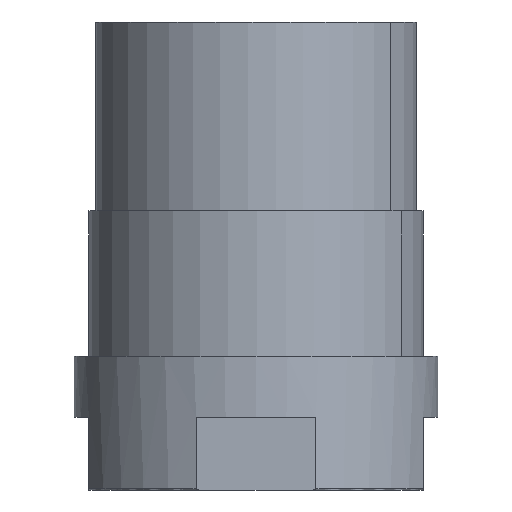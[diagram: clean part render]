
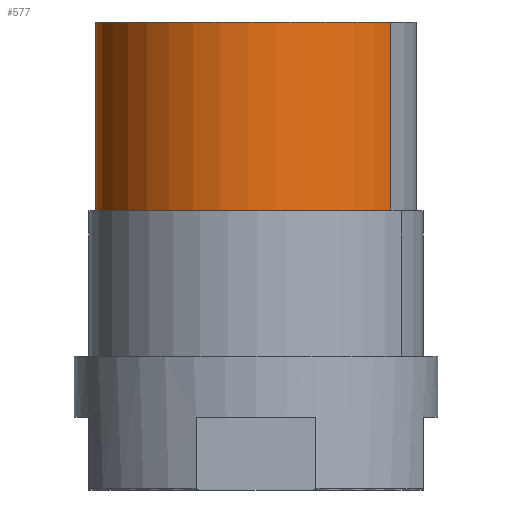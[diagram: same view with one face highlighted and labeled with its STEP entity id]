
A CAD part, front view. The second image highlights one B-rep face of the part: STEP entity #577.
In plain terms, the highlighted cylindrical face has radius 55.25 mm (diameter 110.5 mm), a partial arc.
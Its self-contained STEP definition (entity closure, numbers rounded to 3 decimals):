
#246 = EDGE_CURVE ( 'NONE', #2654, #2681, #785, .T. ) ;
#247 = EDGE_CURVE ( 'NONE', #2654, #2677, #786, .T. ) ;
#248 = EDGE_CURVE ( 'NONE', #2677, #2679, #788, .T. ) ;
#249 = EDGE_CURVE ( 'NONE', #2681, #2679, #791, .T. ) ;
#289 = EDGE_LOOP ( 'NONE', ( #518, #519, #520, #521 ) ) ;
#518 = ORIENTED_EDGE ( 'NONE', *, *, #246, .F. ) ;
#519 = ORIENTED_EDGE ( 'NONE', *, *, #247, .T. ) ;
#520 = ORIENTED_EDGE ( 'NONE', *, *, #248, .T. ) ;
#521 = ORIENTED_EDGE ( 'NONE', *, *, #249, .F. ) ;
#577 = ADVANCED_FACE ( 'NONE', ( #1733 ), #1741, .T. ) ;
#785 = CIRCLE ( 'NONE', #880, 55.25 ) ;
#786 = LINE ( 'NONE', #1124, #790 ) ;
#788 = CIRCLE ( 'NONE', #881, 55.25 ) ;
#790 = VECTOR ( 'NONE', #1122, 1000. ) ;
#791 = LINE ( 'NONE', #1128, #793 ) ;
#793 = VECTOR ( 'NONE', #1123, 1000. ) ;
#880 = AXIS2_PLACEMENT_3D ( 'NONE', #1125, #1126, #1127 ) ;
#881 = AXIS2_PLACEMENT_3D ( 'NONE', #1130, #1131, #1132 ) ;
#1122 = DIRECTION ( 'NONE',  ( 0., 0., -1. ) ) ;
#1123 = DIRECTION ( 'NONE',  ( 0., 0., -1. ) ) ;
#1124 = CARTESIAN_POINT ( 'NONE',  ( -46.38, 30.024, 65. ) ) ;
#1125 = CARTESIAN_POINT ( 'NONE',  ( 0., 0., 65. ) ) ;
#1126 = DIRECTION ( 'NONE',  ( 0., 0., 1. ) ) ;
#1127 = DIRECTION ( 'NONE',  ( -0.839, 0.543, 0. ) ) ;
#1128 = CARTESIAN_POINT ( 'NONE',  ( 46.38, -30.024, 65. ) ) ;
#1130 = CARTESIAN_POINT ( 'NONE',  ( 0., 0., -50. ) ) ;
#1131 = DIRECTION ( 'NONE',  ( 0., 0., 1. ) ) ;
#1132 = DIRECTION ( 'NONE',  ( -0.839, 0.543, 0. ) ) ;
#1677 = AXIS2_PLACEMENT_3D ( 'NONE', #1854, #1843, #1862 ) ;
#1733 = FACE_OUTER_BOUND ( 'NONE', #289, .T. ) ;
#1741 = CYLINDRICAL_SURFACE ( 'NONE', #1677, 55.25 ) ;
#1843 = DIRECTION ( 'NONE',  ( 0., 0., -1. ) ) ;
#1854 = CARTESIAN_POINT ( 'NONE',  ( 0., 0., 65. ) ) ;
#1862 = DIRECTION ( 'NONE',  ( 0.839, -0.543, 0. ) ) ;
#2554 = CARTESIAN_POINT ( 'NONE',  ( -46.38, 30.024, 65. ) ) ;
#2571 = CARTESIAN_POINT ( 'NONE',  ( 46.38, -30.024, 65. ) ) ;
#2610 = CARTESIAN_POINT ( 'NONE',  ( -46.38, 30.024, -50. ) ) ;
#2612 = CARTESIAN_POINT ( 'NONE',  ( 46.38, -30.024, -50. ) ) ;
#2654 = VERTEX_POINT ( 'NONE', #2554 ) ;
#2677 = VERTEX_POINT ( 'NONE', #2610 ) ;
#2679 = VERTEX_POINT ( 'NONE', #2612 ) ;
#2681 = VERTEX_POINT ( 'NONE', #2571 ) ;
